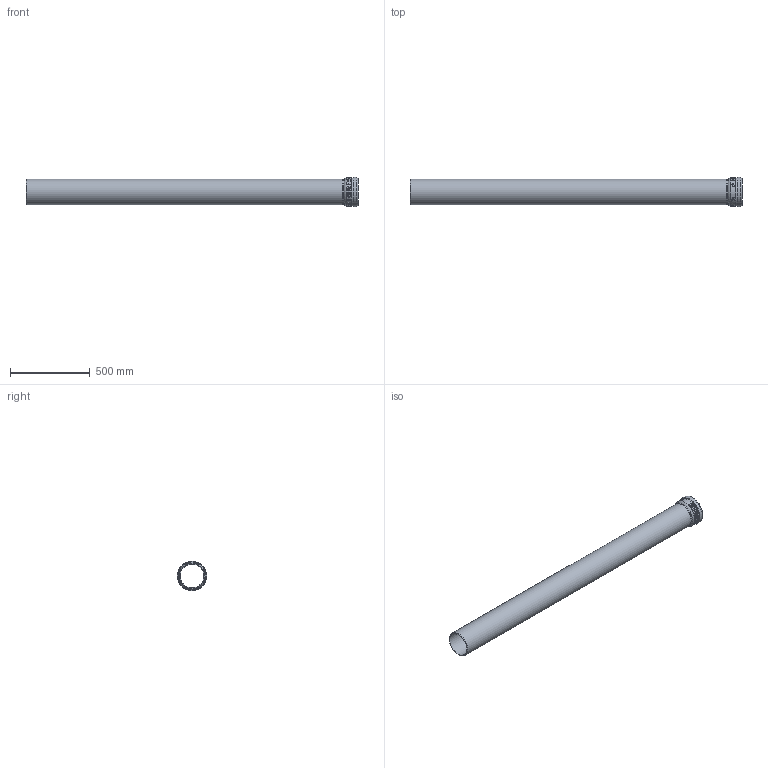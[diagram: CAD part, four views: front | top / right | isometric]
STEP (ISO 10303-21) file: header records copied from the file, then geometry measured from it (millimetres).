
FILE_DESCRIPTION(/* description */ (''),/* implementation_level */ '2;1');
FILE_NAME(/* name */ 'H:\Geberit-Teile\Export\PP_Rohr\stp\393706.stp',/* time_stamp */ '2017-02-13T16:11:00+01:00',/* author */ ('seihe2'),/* organization */ (''),/* preprocessor_version */ 'ST-DEVELOPER v15.2',/* originating_system */ 'Autodesk Inventor 2014',/* authorisation */ '');
FILE_SCHEMA (('AUTOMOTIVE_DESIGN { 1 0 10303 214 3 1 1 }'));
Length unit declared in the file: millimetre
Products named in the file (1): 393706
Bounding box: 2080.6 x 184.86 x 184.86 mm (x, y, z)
Volume: 6127208.7 mm3; surface area: 2063409 mm2
Topology: 2 solids, 2 shells, 38 faces, 79 edges, 54 vertices
Faces by surface type: torus 18, cylinder 10, plane 8, cone 2
Full cylindrical faces by diameter (mm): 148.25 x2, 160.25 x2, 161.4 x1, 164.8 x1, 172.2 x1, 174.6 x1, 175.6 x1, 184.86 x1
Entity records: 2318 total; most frequent: CARTESIAN_POINT 1552, DIRECTION 128, ORIENTED_EDGE 118, EDGE_LOOP 70, AXIS2_PLACEMENT_3D 64, EDGE_CURVE 59, VERTEX_POINT 53, STYLED_ITEM 40
